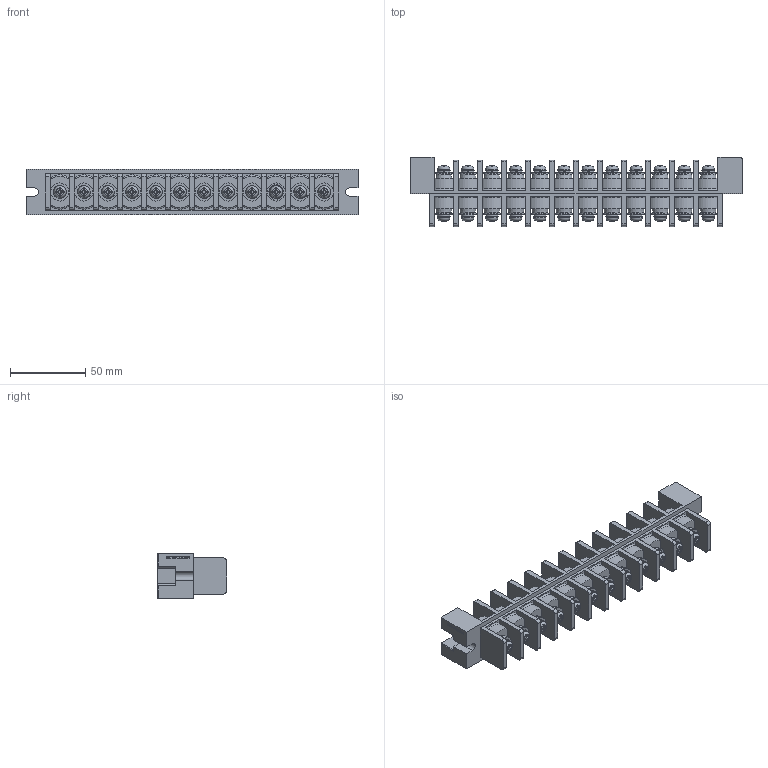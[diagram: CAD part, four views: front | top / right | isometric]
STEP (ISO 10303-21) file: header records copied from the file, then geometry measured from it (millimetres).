
FILE_DESCRIPTION(/* description */ ('Alibre Inc.'),/* implementation_level */ '2;1');
FILE_NAME(/* name */ 'export0',/* time_stamp */ '2016-01-14T19:27:06+09:00',/* author */ (''),/* organization */ (''),/* preprocessor_version */ 'ST-DEVELOPER v14',/* originating_system */ 'Alibre',/* authorisation */ '');
FILE_SCHEMA (('CONFIG_CONTROL_DESIGN'));
Length unit declared in the file: centimetre
Products named in the file (1): ID_1
Bounding box: 221 x 46 x 30 mm (x, y, z)
Volume: 137933.7 mm3; surface area: 58329.4 mm2
Topology: 1 solids, 37 shells, 1542 faces, 4068 edges, 2671 vertices
Faces by surface type: plane 814, cylinder 316, cone 192, sphere 96, torus 72, bspline 52
Full cylindrical faces by diameter (mm): 4.55 x2, 5 x36, 8 x24, 10.75 x24, 12 x24
Entity records: 47444 total; most frequent: CARTESIAN_POINT 13288, ORIENTED_EDGE 7482, DIRECTION 5831, EDGE_CURVE 3741, VERTEX_POINT 2574, AXIS2_PLACEMENT_3D 2437, EDGE_LOOP 1891, FACE_BOUND 1891
